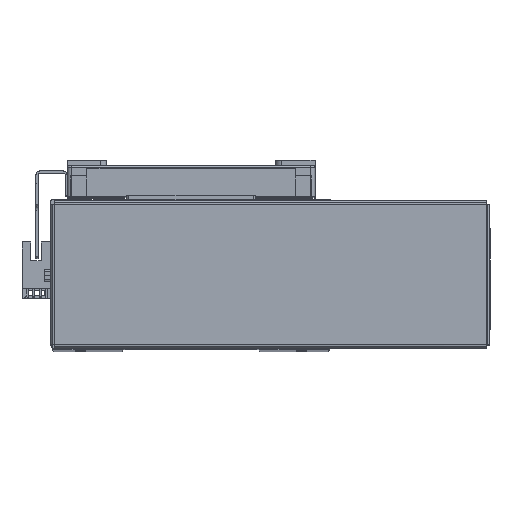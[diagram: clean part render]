
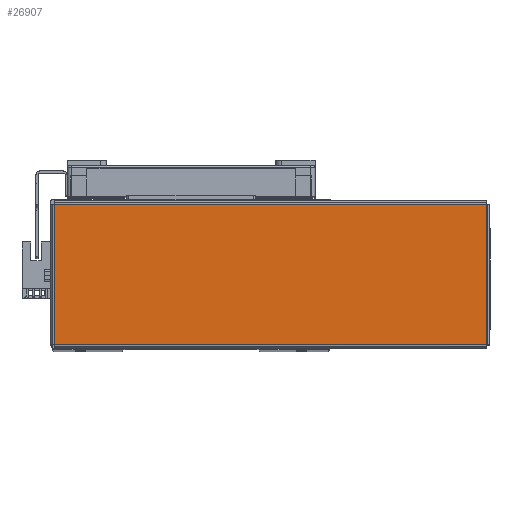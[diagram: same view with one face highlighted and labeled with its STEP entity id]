
A CAD part, top view. The second image highlights one B-rep face of the part: STEP entity #26907.
In plain terms, the highlighted planar face has unit normal (0, 0, 1) as drawn and (0, -1, 0) by its records, which use the part's own axes.
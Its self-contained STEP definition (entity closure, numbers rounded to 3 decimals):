
#6823 = VERTEX_POINT ( 'NONE', #8604 ) ;
#6843 = VERTEX_POINT ( 'NONE', #8647 ) ;
#6884 = VERTEX_POINT ( 'NONE', #8677 ) ;
#6915 = VERTEX_POINT ( 'NONE', #8706 ) ;
#8604 = CARTESIAN_POINT ( 'NONE',  ( -103.763, -1., 33.763 ) ) ;
#8647 = CARTESIAN_POINT ( 'NONE',  ( -103.763, -1., -33.763 ) ) ;
#8677 = CARTESIAN_POINT ( 'NONE',  ( 103.763, -1., -33.763 ) ) ;
#8706 = CARTESIAN_POINT ( 'NONE',  ( 103.763, -1., 33.763 ) ) ;
#9595 = LINE ( 'NONE', #11472, #9619 ) ;
#9598 = LINE ( 'NONE', #11492, #9642 ) ;
#9619 = VECTOR ( 'NONE', #11467, 1000. ) ;
#9642 = VECTOR ( 'NONE', #11483, 1000. ) ;
#9663 = LINE ( 'NONE', #11582, #9672 ) ;
#9672 = VECTOR ( 'NONE', #11610, 1000. ) ;
#9688 = LINE ( 'NONE', #11561, #9698 ) ;
#9698 = VECTOR ( 'NONE', #11589, 1000. ) ;
#11467 = DIRECTION ( 'NONE',  ( -1., 0., 0. ) ) ;
#11472 = CARTESIAN_POINT ( 'NONE',  ( 103.793, -1., 33.763 ) ) ;
#11483 = DIRECTION ( 'NONE',  ( 1., 0., 0. ) ) ;
#11492 = CARTESIAN_POINT ( 'NONE',  ( -103.793, -1., -33.763 ) ) ;
#11561 = CARTESIAN_POINT ( 'NONE',  ( 103.763, -1., -33.793 ) ) ;
#11582 = CARTESIAN_POINT ( 'NONE',  ( -103.763, -1., 33.793 ) ) ;
#11589 = DIRECTION ( 'NONE',  ( 0., 0., 1. ) ) ;
#11610 = DIRECTION ( 'NONE',  ( 0., 0., -1. ) ) ;
#12926 = EDGE_LOOP ( 'NONE', ( #22406, #22362, #22379, #22425 ) ) ;
#22362 = ORIENTED_EDGE ( 'NONE', *, *, #55494, .T. ) ;
#22379 = ORIENTED_EDGE ( 'NONE', *, *, #55460, .T. ) ;
#22406 = ORIENTED_EDGE ( 'NONE', *, *, #55456, .T. ) ;
#22425 = ORIENTED_EDGE ( 'NONE', *, *, #55489, .T. ) ;
#26907 = ADVANCED_FACE ( 'NONE', ( #60167 ), #30908, .F. ) ;
#30908 = PLANE ( 'NONE',  #45737 ) ;
#30920 = DIRECTION ( 'NONE',  ( 0., 0., 1. ) ) ;
#30970 = CARTESIAN_POINT ( 'NONE',  ( 0., -1., 0. ) ) ;
#30975 = DIRECTION ( 'NONE',  ( 0., 1., 0. ) ) ;
#45737 = AXIS2_PLACEMENT_3D ( 'NONE', #30970, #30975, #30920 ) ;
#55456 = EDGE_CURVE ( 'NONE', #6915, #6823, #9595, .T. ) ;
#55460 = EDGE_CURVE ( 'NONE', #6843, #6884, #9598, .T. ) ;
#55489 = EDGE_CURVE ( 'NONE', #6884, #6915, #9688, .T. ) ;
#55494 = EDGE_CURVE ( 'NONE', #6823, #6843, #9663, .T. ) ;
#60167 = FACE_OUTER_BOUND ( 'NONE', #12926, .T. ) ;
